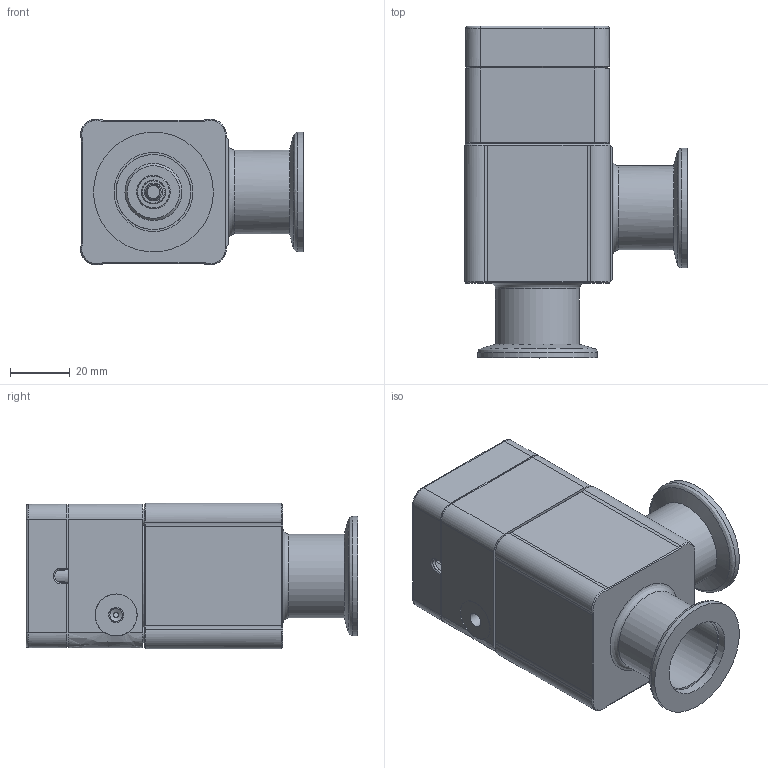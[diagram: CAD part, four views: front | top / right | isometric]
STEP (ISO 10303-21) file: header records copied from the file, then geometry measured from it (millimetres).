
FILE_DESCRIPTION((''),'2;1');
FILE_NAME('C:\TEMP\IDEAS\240255.stp','2006-09-19T15:43:20',('User'),( 'SDRC'),'I-DEAS Master Series 9','UNIX','Yes');
FILE_SCHEMA(('CONFIG_CONTROL_DESIGN'));
Length unit declared in the file: millimetre
Assembly tree (10 placements, depth 0):
Bounding box: 74.3 x 110.6 x 48.6 mm (x, y, z)
Volume: 108886.7 mm3; surface area: 63169.6 mm2
Topology: 18 solids, 18 shells, 551 faces, 1323 edges, 839 vertices
Faces by surface type: bspline 551
Entity records: 16955 total; most frequent: CARTESIAN_POINT 9095, ORIENTED_EDGE 2326, EDGE_CURVE 1163, VERTEX_POINT 740, EDGE_LOOP 545, FACE_OUTER_BOUND 476, ADVANCED_FACE 476, QUASI_UNIFORM_CURVE 397
